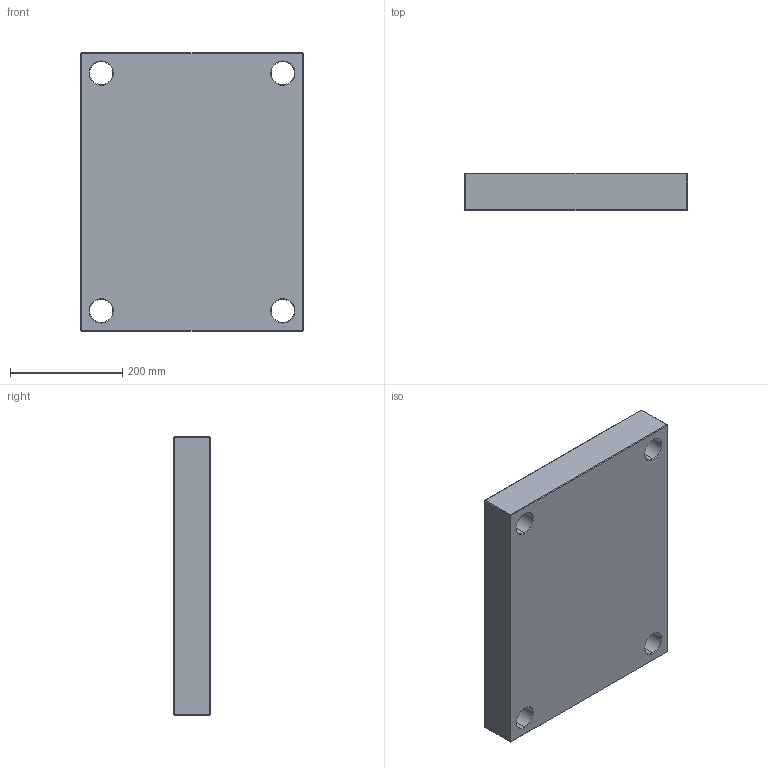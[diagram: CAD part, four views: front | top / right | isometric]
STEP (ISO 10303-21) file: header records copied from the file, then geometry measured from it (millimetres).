
FILE_DESCRIPTION (( 'STEP AP214' ), '1' );
FILE_NAME ('PCX-396x496x66.STEP', '2020-05-04T09:33:48', ( 'August' ), ( '' ), 'SwSTEP 2.0', 'SolidWorks 2018', '' );
FILE_SCHEMA (( 'AUTOMOTIVE_DESIGN' ));
Length unit declared in the file: millimetre
Products named in the file (1): PCX-396x496x66
Bounding box: 396 x 66 x 496 mm (x, y, z)
Volume: 12575256.7 mm3; surface area: 536662 mm2
Topology: 1 solids, 1 shells, 82 faces, 168 edges, 96 vertices
Faces by surface type: plane 34, cone 24, cylinder 24
Entity records: 2170 total; most frequent: DIRECTION 406, CARTESIAN_POINT 347, ORIENTED_EDGE 336, EDGE_CURVE 168, AXIS2_PLACEMENT_3D 155, EDGE_LOOP 98, VECTOR 96, VERTEX_POINT 96
